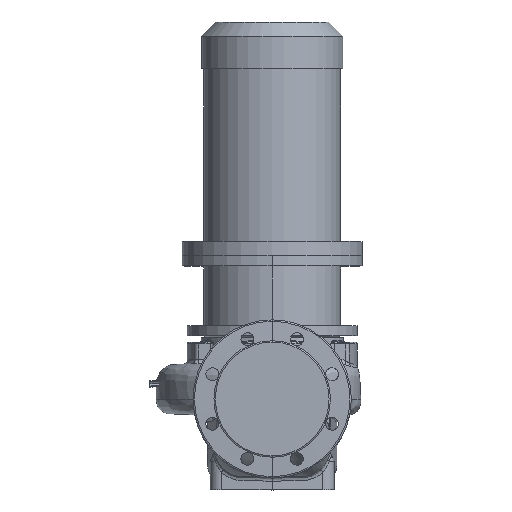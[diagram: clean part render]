
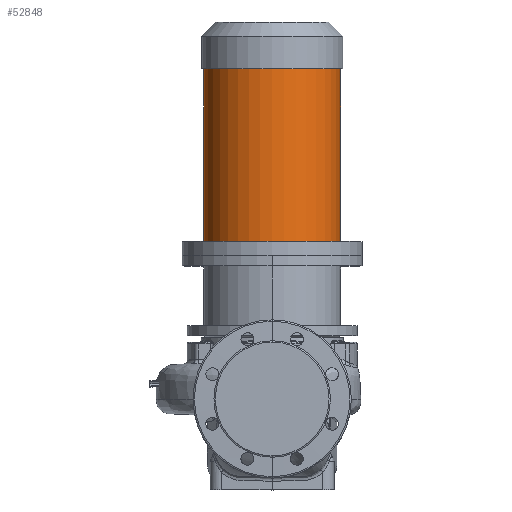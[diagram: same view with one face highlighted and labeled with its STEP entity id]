
A CAD part, top view. The second image highlights one B-rep face of the part: STEP entity #52848.
In plain terms, the highlighted cylindrical face has radius 95 mm (diameter 190 mm), a partial arc.
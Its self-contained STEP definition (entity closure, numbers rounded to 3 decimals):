
#2990 = AXIS2_PLACEMENT_3D ( 'NONE', #32848, #33041, #46180 ) ;
#3197 = ORIENTED_EDGE ( 'NONE', *, *, #43768, .F. ) ;
#4028 = CIRCLE ( 'NONE', #2990, 95. ) ;
#8020 = CIRCLE ( 'NONE', #43035, 95. ) ;
#8850 = LINE ( 'NONE', #47519, #32467 ) ;
#8971 = AXIS2_PLACEMENT_3D ( 'NONE', #49215, #27155, #37237 ) ;
#11184 = CARTESIAN_POINT ( 'NONE',  ( 95., 219.3, 0. ) ) ;
#11582 = CYLINDRICAL_SURFACE ( 'NONE', #8971, 95. ) ;
#14874 = EDGE_CURVE ( 'NONE', #51567, #47370, #8850, .T. ) ;
#16137 = CARTESIAN_POINT ( 'NONE',  ( 95., 459.3, 0. ) ) ;
#22266 = DIRECTION ( 'NONE',  ( 0., -1., 0. ) ) ;
#25428 = CARTESIAN_POINT ( 'NONE',  ( -95., 459.3, 0. ) ) ;
#26343 = CARTESIAN_POINT ( 'NONE',  ( -95., 199.3, 0. ) ) ;
#27155 = DIRECTION ( 'NONE',  ( 0., -1., 0. ) ) ;
#28644 = VERTEX_POINT ( 'NONE', #34007 ) ;
#29755 = DIRECTION ( 'NONE',  ( 0., -1., 0. ) ) ;
#30813 = EDGE_CURVE ( 'NONE', #34552, #28644, #52081, .T. ) ;
#32467 = VECTOR ( 'NONE', #29755, 1000. ) ;
#32848 = CARTESIAN_POINT ( 'NONE',  ( 0., 219.3, 0. ) ) ;
#33041 = DIRECTION ( 'NONE',  ( 0., -1., 0. ) ) ;
#33421 = ORIENTED_EDGE ( 'NONE', *, *, #14874, .F. ) ;
#33545 = CARTESIAN_POINT ( 'NONE',  ( 0., 459.3, 0. ) ) ;
#34007 = CARTESIAN_POINT ( 'NONE',  ( -95., 219.3, 0. ) ) ;
#34552 = VERTEX_POINT ( 'NONE', #25428 ) ;
#37237 = DIRECTION ( 'NONE',  ( -1., 0., 0. ) ) ;
#38204 = DIRECTION ( 'NONE',  ( 0., -1., 0. ) ) ;
#42061 = DIRECTION ( 'NONE',  ( -1., 0., 0. ) ) ;
#43035 = AXIS2_PLACEMENT_3D ( 'NONE', #33545, #38204, #42061 ) ;
#43768 = EDGE_CURVE ( 'NONE', #47370, #28644, #4028, .T. ) ;
#44777 = EDGE_LOOP ( 'NONE', ( #33421, #45724, #50131, #3197 ) ) ;
#45724 = ORIENTED_EDGE ( 'NONE', *, *, #50072, .T. ) ;
#46180 = DIRECTION ( 'NONE',  ( -1., 0., 0. ) ) ;
#47370 = VERTEX_POINT ( 'NONE', #11184 ) ;
#47519 = CARTESIAN_POINT ( 'NONE',  ( 95., 199.3, 0. ) ) ;
#49215 = CARTESIAN_POINT ( 'NONE',  ( 0., 199.3, 0. ) ) ;
#50072 = EDGE_CURVE ( 'NONE', #51567, #34552, #8020, .T. ) ;
#50131 = ORIENTED_EDGE ( 'NONE', *, *, #30813, .T. ) ;
#51567 = VERTEX_POINT ( 'NONE', #16137 ) ;
#52081 = LINE ( 'NONE', #26343, #56927 ) ;
#52440 = FACE_OUTER_BOUND ( 'NONE', #44777, .T. ) ;
#52848 = ADVANCED_FACE ( 'NONE', ( #52440 ), #11582, .T. ) ;
#56927 = VECTOR ( 'NONE', #22266, 1000. ) ;
